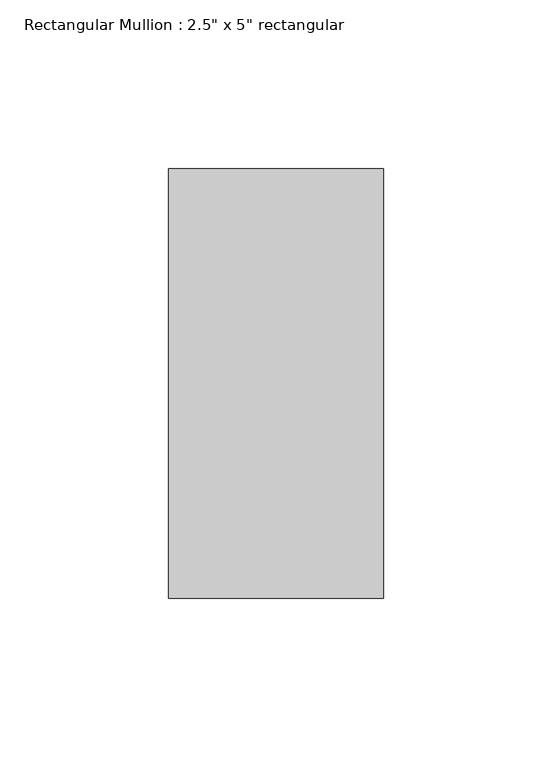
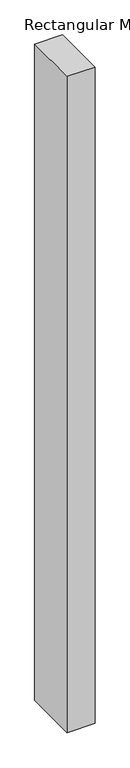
"""IFC4 building model written with IfcOpenShell, lengths in millimetres: member geometry."""

from ifc_helpers import new_model, si_unit, frame, origin, place, context, project, spatial, polyline, outline, extrude, source, transform, mapped, element, save


def member_c1705524(model_context):
    return source(origin(), model_context, "Body", "SweptSolid", [
        extrude(outline(polyline([(31.75, 63.5), (31.75, -63.5), (-31.75, -63.5), (-31.75, 63.5), (31.75, 63.5)])), frame((0.0, 0.0, -1573.7691156), z_axis=(0.0, 0.0, 1.0), x_axis=(1.0, 0.0, 0.0)), (0.0, 0.0, 1.0), 1573.7691156),
    ])


if __name__ == "__main__":
    model = new_model("IFC4")
    model_context = context("Model", 3, world=origin())
    ifc_project = project(units=[si_unit("LENGTHUNIT", "METRE", prefix="MILLI")], contexts=[model_context])
    site = spatial("IfcSite", under=ifc_project)
    building = spatial("IfcBuilding", under=site)
    placement = place(None, origin())
    member_shape = member_c1705524(model_context)
    element("IfcMember", 1, ObjectType="Rectangular Mullion : 2.5\" x 5\" rectangular", at=placement, inside=building, context=model_context, shape_type="MappedRepresentation", body=[
        mapped(member_shape, transform((0.0, 0.0, 0.0), x_axis=(1.0, 0.0, 0.0), y_axis=(0.0, 1.0, 0.0), z_axis=(0.0, 0.0, 1.0))),
    ])
    save(model, "model.ifc")
